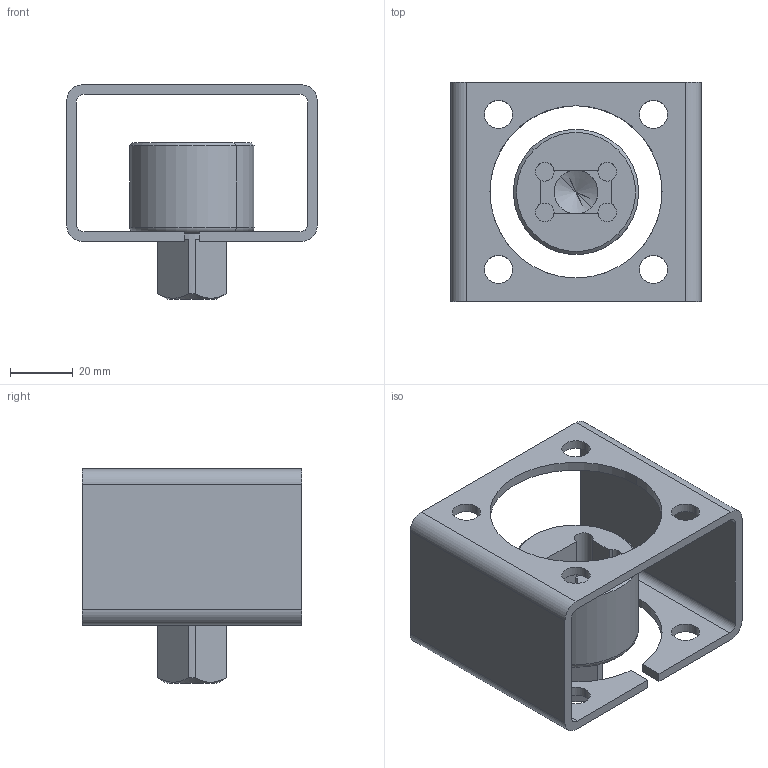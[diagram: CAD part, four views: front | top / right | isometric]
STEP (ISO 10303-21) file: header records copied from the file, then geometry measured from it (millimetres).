
FILE_DESCRIPTION((''),'2;1');
FILE_NAME('74754544500_ASM','2022-11-17T09:49:10',('alfio.taboni'),('CDM Tecnoconsulting'),'CREO PARAMETRIC BY PTC INC, 2020053','CREO PARAMETRIC BY PTC INC, 2020053','');
FILE_SCHEMA(('CONFIG_CONTROL_DESIGN','SHAPE_APPEARANCE_LAYERS_GROUPS'));
Length unit declared in the file: millimetre
Products named in the file (3): 74701044500; 74850035500; 74754544500_ASM
Assembly tree (2 placements, depth 2):
  74754544500_ASM
    74701044500
    74850035500
Bounding box: 80 x 70 x 68.5 mm (x, y, z)
Volume: 67555.6 mm3; surface area: 36073.4 mm2
Topology: 2 solids, 2 shells, 245 faces, 670 edges, 443 vertices
Faces by surface type: plane 139, extrusion 56, cylinder 42, cone 6, torus 2
Entity records: 8063 total; most frequent: CARTESIAN_POINT 1847, ORIENTED_EDGE 1336, DIRECTION 1104, EDGE_CURVE 668, VECTOR 496, VERTEX_POINT 443, LINE 440, AXIS2_PLACEMENT_3D 304
